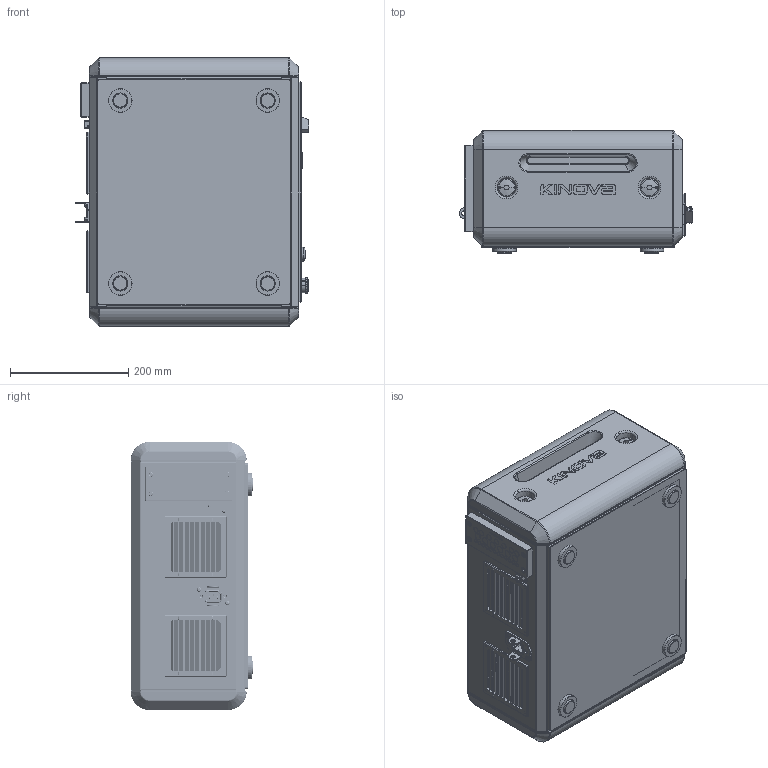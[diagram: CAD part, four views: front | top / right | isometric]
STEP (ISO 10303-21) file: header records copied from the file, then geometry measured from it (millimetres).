
FILE_DESCRIPTION (( 'STEP AP214' ), '1' );
FILE_NAME ('LINK 6 EXTERNAL CONTROLLER_LITE_2022-05-27.STEP', '2022-05-30T15:46:09', ( '' ), ( '' ), 'SwSTEP 2.0', 'SolidWorks 2018', '' );
FILE_SCHEMA (( 'AUTOMOTIVE_DESIGN' ));
Length unit declared in the file: foot
Products named in the file (1): LINK 6 EXTERNAL CONTROLLER_LITE_2022-05-27
Bounding box: 395.45 x 208.04 x 454.42 mm (x, y, z)
Surface area: 1751461 mm2 (no closed solid volume)
Topology: 0 solids, 87 shells, 5817 faces, 14724 edges, 9415 vertices
Faces by surface type: plane 2862, cylinder 1575, cone 554, bspline 477, torus 297, sphere 52
Entity records: 271663 total; most frequent: CARTESIAN_POINT 62053, ORIENTED_EDGE 29018, DIRECTION 27512, EDGE_CURVE 14676, VERTEX_POINT 9415, AXIS2_PLACEMENT_3D 9319, LINE 8874, VECTOR 8874
